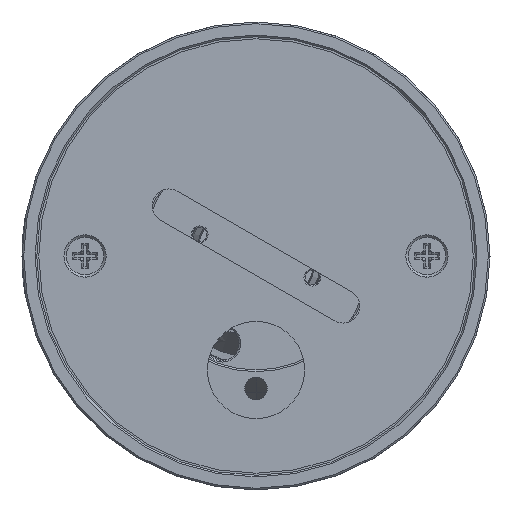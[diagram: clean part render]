
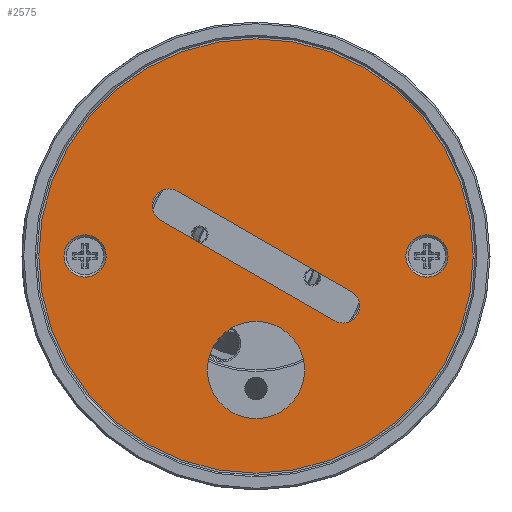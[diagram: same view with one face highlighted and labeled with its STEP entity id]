
A CAD part, front view. The second image highlights one B-rep face of the part: STEP entity #2575.
In plain terms, the highlighted planar face has unit normal (0, -1, 0).
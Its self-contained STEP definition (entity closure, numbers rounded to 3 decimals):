
#7 = EDGE_LOOP ( 'NONE', ( #13063, #10128 ) ) ;
#197 = EDGE_CURVE ( 'NONE', #11957, #1593, #3995, .T. ) ;
#506 = DIRECTION ( 'NONE',  ( 0., 0., 1. ) ) ;
#872 = DIRECTION ( 'NONE',  ( 0., -1., 0. ) ) ;
#1025 = ORIENTED_EDGE ( 'NONE', *, *, #22499, .T. ) ;
#1220 = DIRECTION ( 'NONE',  ( 0., 0., -1. ) ) ;
#1518 = EDGE_CURVE ( 'NONE', #19921, #9762, #10029, .T. ) ;
#1593 = VERTEX_POINT ( 'NONE', #9326 ) ;
#1682 = FACE_BOUND ( 'NONE', #12875, .T. ) ;
#2479 = ORIENTED_EDGE ( 'NONE', *, *, #11852, .T. ) ;
#2575 = ADVANCED_FACE ( 'NONE', ( #1682, #8834, #10787, #14322, #7257 ), #22119, .T. ) ;
#2762 = CIRCLE ( 'NONE', #18305, 3.15 ) ;
#2829 = ORIENTED_EDGE ( 'NONE', *, *, #11468, .T. ) ;
#3969 = CARTESIAN_POINT ( 'NONE',  ( 0., 0., -17. ) ) ;
#3995 = CIRCLE ( 'NONE', #12125, 3.15 ) ;
#4055 = ORIENTED_EDGE ( 'NONE', *, *, #10541, .T. ) ;
#4224 = CIRCLE ( 'NONE', #23313, 32.4 ) ;
#4278 = AXIS2_PLACEMENT_3D ( 'NONE', #12469, #12344, #23563 ) ;
#4305 = AXIS2_PLACEMENT_3D ( 'NONE', #5447, #19926, #14037 ) ;
#4599 = AXIS2_PLACEMENT_3D ( 'NONE', #19604, #15578, #12278 ) ;
#4659 = CIRCLE ( 'NONE', #4278, 2.5 ) ;
#4970 = VECTOR ( 'NONE', #21665, 1000. ) ;
#5125 = VERTEX_POINT ( 'NONE', #15692 ) ;
#5437 = VECTOR ( 'NONE', #10853, 1000. ) ;
#5447 = CARTESIAN_POINT ( 'NONE',  ( 0., 0., 0. ) ) ;
#5510 = LINE ( 'NONE', #13040, #5437 ) ;
#7080 = ORIENTED_EDGE ( 'NONE', *, *, #11249, .T. ) ;
#7132 = VERTEX_POINT ( 'NONE', #20556 ) ;
#7257 = FACE_OUTER_BOUND ( 'NONE', #16472, .T. ) ;
#7438 = CARTESIAN_POINT ( 'NONE',  ( 11.74, 0., -9.665 ) ) ;
#7530 = DIRECTION ( 'NONE',  ( 0., 0., -1. ) ) ;
#7737 = CIRCLE ( 'NONE', #13956, 3.15 ) ;
#7807 = CARTESIAN_POINT ( 'NONE',  ( -12.99, 0., 10. ) ) ;
#8010 = CIRCLE ( 'NONE', #18523, 7.25 ) ;
#8573 = CARTESIAN_POINT ( 'NONE',  ( 0., 0., -32.4 ) ) ;
#8834 = FACE_BOUND ( 'NONE', #20833, .T. ) ;
#9326 = CARTESIAN_POINT ( 'NONE',  ( 25.5, 0., -3.15 ) ) ;
#9581 = DIRECTION ( 'NONE',  ( 0., 0., -1. ) ) ;
#9586 = ORIENTED_EDGE ( 'NONE', *, *, #1518, .T. ) ;
#9700 = CIRCLE ( 'NONE', #4599, 2.5 ) ;
#9762 = VERTEX_POINT ( 'NONE', #16359 ) ;
#9860 = CARTESIAN_POINT ( 'NONE',  ( 0., 0., 0. ) ) ;
#10029 = CIRCLE ( 'NONE', #23642, 32.4 ) ;
#10097 = DIRECTION ( 'NONE',  ( 0., -1., 0. ) ) ;
#10128 = ORIENTED_EDGE ( 'NONE', *, *, #197, .F. ) ;
#10404 = EDGE_CURVE ( 'NONE', #1593, #11957, #16664, .T. ) ;
#10541 = EDGE_CURVE ( 'NONE', #10935, #5125, #14352, .T. ) ;
#10703 = CARTESIAN_POINT ( 'NONE',  ( 25.5, 0., 3.15 ) ) ;
#10787 = FACE_BOUND ( 'NONE', #22014, .T. ) ;
#10824 = AXIS2_PLACEMENT_3D ( 'NONE', #16308, #13011, #20446 ) ;
#10853 = DIRECTION ( 'NONE',  ( 0.866, 0., -0.5 ) ) ;
#10935 = VERTEX_POINT ( 'NONE', #12582 ) ;
#11094 = CARTESIAN_POINT ( 'NONE',  ( -11.74, 0., 9.665 ) ) ;
#11249 = EDGE_CURVE ( 'NONE', #9762, #19921, #4224, .T. ) ;
#11320 = DIRECTION ( 'NONE',  ( 0., 1., 0. ) ) ;
#11439 = CARTESIAN_POINT ( 'NONE',  ( 0., 0., -17. ) ) ;
#11460 = ORIENTED_EDGE ( 'NONE', *, *, #15949, .F. ) ;
#11468 = EDGE_CURVE ( 'NONE', #23255, #18255, #5510, .T. ) ;
#11831 = DIRECTION ( 'NONE',  ( 0., -1., 0. ) ) ;
#11852 = EDGE_CURVE ( 'NONE', #17991, #23255, #9700, .T. ) ;
#11957 = VERTEX_POINT ( 'NONE', #10703 ) ;
#11981 = CIRCLE ( 'NONE', #10824, 2.5 ) ;
#12021 = EDGE_CURVE ( 'NONE', #18255, #13520, #11981, .T. ) ;
#12125 = AXIS2_PLACEMENT_3D ( 'NONE', #16888, #13127, #7530 ) ;
#12278 = DIRECTION ( 'NONE',  ( 0., 0., 1. ) ) ;
#12344 = DIRECTION ( 'NONE',  ( 0., 1., 0. ) ) ;
#12380 = AXIS2_PLACEMENT_3D ( 'NONE', #15567, #10097, #1220 ) ;
#12469 = CARTESIAN_POINT ( 'NONE',  ( -12.99, 0., 7.5 ) ) ;
#12526 = CARTESIAN_POINT ( 'NONE',  ( 14.24, 0., -5.335 ) ) ;
#12582 = CARTESIAN_POINT ( 'NONE',  ( 0., 0., -24.25 ) ) ;
#12875 = EDGE_LOOP ( 'NONE', ( #13636, #2479, #2829, #17064, #1025 ) ) ;
#13011 = DIRECTION ( 'NONE',  ( 0., 1., 0. ) ) ;
#13040 = CARTESIAN_POINT ( 'NONE',  ( -11.74, 0., 9.665 ) ) ;
#13063 = ORIENTED_EDGE ( 'NONE', *, *, #10404, .F. ) ;
#13075 = VERTEX_POINT ( 'NONE', #20022 ) ;
#13105 = DIRECTION ( 'NONE',  ( 0., 0., -1. ) ) ;
#13127 = DIRECTION ( 'NONE',  ( 0., -1., 0. ) ) ;
#13424 = CARTESIAN_POINT ( 'NONE',  ( 0., 0., 0. ) ) ;
#13520 = VERTEX_POINT ( 'NONE', #7438 ) ;
#13636 = ORIENTED_EDGE ( 'NONE', *, *, #14290, .T. ) ;
#13881 = ORIENTED_EDGE ( 'NONE', *, *, #19963, .T. ) ;
#13956 = AXIS2_PLACEMENT_3D ( 'NONE', #20534, #20661, #13105 ) ;
#14037 = DIRECTION ( 'NONE',  ( 0., 0., -1. ) ) ;
#14290 = EDGE_CURVE ( 'NONE', #14516, #17991, #4659, .T. ) ;
#14322 = FACE_BOUND ( 'NONE', #7, .T. ) ;
#14352 = CIRCLE ( 'NONE', #17838, 7.25 ) ;
#14516 = VERTEX_POINT ( 'NONE', #20155 ) ;
#14826 = DIRECTION ( 'NONE',  ( 0., -1., 0. ) ) ;
#15567 = CARTESIAN_POINT ( 'NONE',  ( 25.5, 0., 0. ) ) ;
#15578 = DIRECTION ( 'NONE',  ( 0., 1., 0. ) ) ;
#15692 = CARTESIAN_POINT ( 'NONE',  ( 0., 0., -9.75 ) ) ;
#15949 = EDGE_CURVE ( 'NONE', #7132, #13075, #2762, .T. ) ;
#16308 = CARTESIAN_POINT ( 'NONE',  ( 12.99, 0., -7.5 ) ) ;
#16359 = CARTESIAN_POINT ( 'NONE',  ( 0., 0., 32.4 ) ) ;
#16472 = EDGE_LOOP ( 'NONE', ( #9586, #7080 ) ) ;
#16664 = CIRCLE ( 'NONE', #12380, 3.15 ) ;
#16888 = CARTESIAN_POINT ( 'NONE',  ( 25.5, 0., 0. ) ) ;
#16953 = DIRECTION ( 'NONE',  ( 0., 1., 0. ) ) ;
#17064 = ORIENTED_EDGE ( 'NONE', *, *, #12021, .T. ) ;
#17838 = AXIS2_PLACEMENT_3D ( 'NONE', #11439, #11320, #506 ) ;
#17991 = VERTEX_POINT ( 'NONE', #7807 ) ;
#18255 = VERTEX_POINT ( 'NONE', #12526 ) ;
#18305 = AXIS2_PLACEMENT_3D ( 'NONE', #22369, #14826, #9581 ) ;
#18436 = DIRECTION ( 'NONE',  ( 0., 0., 1. ) ) ;
#18523 = AXIS2_PLACEMENT_3D ( 'NONE', #3969, #16953, #18436 ) ;
#18799 = DIRECTION ( 'NONE',  ( 0., 0., -1. ) ) ;
#19604 = CARTESIAN_POINT ( 'NONE',  ( -12.99, 0., 7.5 ) ) ;
#19921 = VERTEX_POINT ( 'NONE', #8573 ) ;
#19926 = DIRECTION ( 'NONE',  ( 0., -1., 0. ) ) ;
#19963 = EDGE_CURVE ( 'NONE', #5125, #10935, #8010, .T. ) ;
#20022 = CARTESIAN_POINT ( 'NONE',  ( -25.5, 0., -3.15 ) ) ;
#20155 = CARTESIAN_POINT ( 'NONE',  ( -14.24, 0., 5.335 ) ) ;
#20210 = LINE ( 'NONE', #21787, #4970 ) ;
#20446 = DIRECTION ( 'NONE',  ( 0., 0., 1. ) ) ;
#20534 = CARTESIAN_POINT ( 'NONE',  ( -25.5, 0., 0. ) ) ;
#20556 = CARTESIAN_POINT ( 'NONE',  ( -25.5, 0., 3.15 ) ) ;
#20661 = DIRECTION ( 'NONE',  ( 0., -1., 0. ) ) ;
#20833 = EDGE_LOOP ( 'NONE', ( #13881, #4055 ) ) ;
#21665 = DIRECTION ( 'NONE',  ( -0.866, 0., 0.5 ) ) ;
#21787 = CARTESIAN_POINT ( 'NONE',  ( -14.24, 0., 5.335 ) ) ;
#22014 = EDGE_LOOP ( 'NONE', ( #22285, #11460 ) ) ;
#22119 = PLANE ( 'NONE',  #4305 ) ;
#22285 = ORIENTED_EDGE ( 'NONE', *, *, #24025, .F. ) ;
#22369 = CARTESIAN_POINT ( 'NONE',  ( -25.5, 0., 0. ) ) ;
#22499 = EDGE_CURVE ( 'NONE', #13520, #14516, #20210, .T. ) ;
#23245 = DIRECTION ( 'NONE',  ( 0., 0., -1. ) ) ;
#23255 = VERTEX_POINT ( 'NONE', #11094 ) ;
#23313 = AXIS2_PLACEMENT_3D ( 'NONE', #13424, #11831, #18799 ) ;
#23563 = DIRECTION ( 'NONE',  ( 0., 0., 1. ) ) ;
#23642 = AXIS2_PLACEMENT_3D ( 'NONE', #9860, #872, #23245 ) ;
#24025 = EDGE_CURVE ( 'NONE', #13075, #7132, #7737, .T. ) ;
